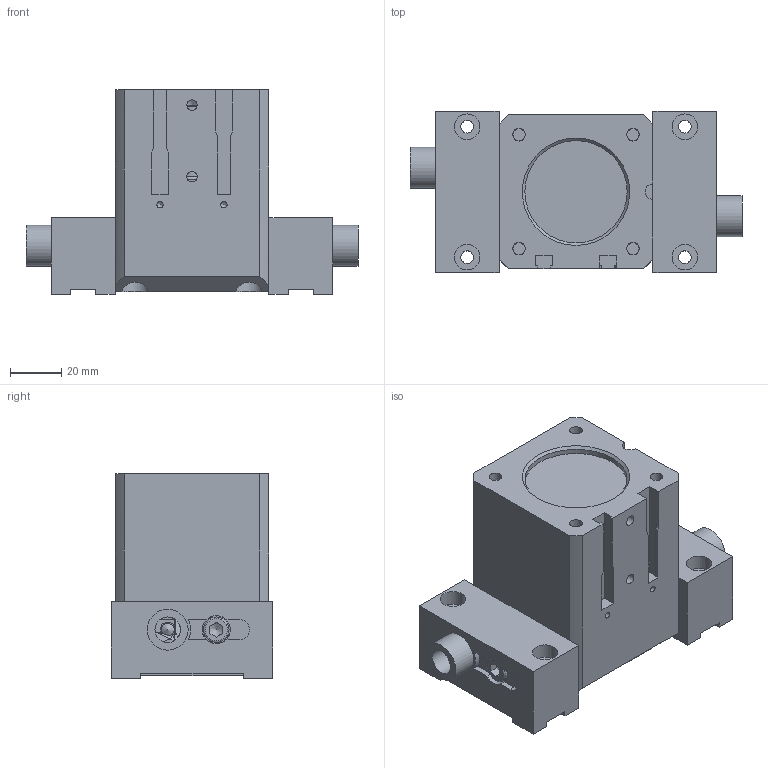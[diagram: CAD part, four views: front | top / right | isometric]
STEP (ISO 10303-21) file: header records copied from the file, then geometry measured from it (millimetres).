
FILE_DESCRIPTION((''),'2;1');
FILE_NAME('T:\CAD\Standard\Daten\3D-Datenbank\GP\4 - 3D-CAD-Daten GP 050-125\GP080\step-Daten\G-GP080-l1-GS+UB closed.stp','2013-11-07T10:00:21',('Dirk'),(''),'Autodesk Inventor 2011','Autodesk Inventor 2011','');
FILE_SCHEMA(('AUTOMOTIVE_DESIGN { 1 0 10303 214 1 1 1 1 }'));
Length unit declared in the file: millimetre
Products named in the file (1): Bauteil12
Bounding box: 129.83 x 63 x 80 mm (x, y, z)
Volume: 309222.3 mm3; surface area: 91642.3 mm2
Topology: 1 solids, 18 shells, 417 faces, 1057 edges, 688 vertices
Faces by surface type: plane 240, cylinder 115, cone 34, torus 27, bspline 1
Full cylindrical faces by diameter (mm): 2.459 x2, 4.134 x2, 4.917 x8, 5 x2, 6 x6, 6.5 x4, 6.6 x2, 8.376 x1, 10 x13, 10.5 x1, 11 x8, 16 x6, 18 x7, 20 x2, 24.4 x2, 26 x2, 35 x1, 36 x2, 40 x2, 40.2 x2, 47.1 x2, 50 x6
Entity records: 12735 total; most frequent: CARTESIAN_POINT 3094, DIRECTION 1924, ORIENTED_EDGE 1682, EDGE_CURVE 841, AXIS2_PLACEMENT_3D 744, EDGE_LOOP 635, VERTEX_POINT 611, VECTOR 436
